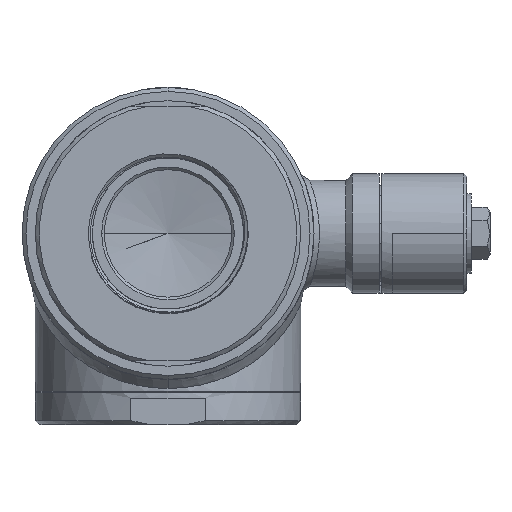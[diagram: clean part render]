
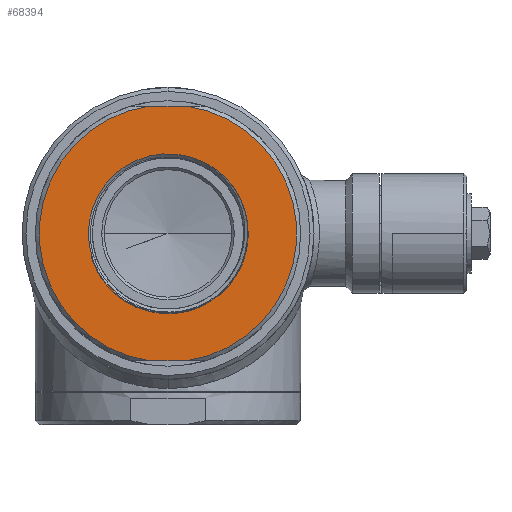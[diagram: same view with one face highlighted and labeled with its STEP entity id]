
A CAD part, front view. The second image highlights one B-rep face of the part: STEP entity #68394.
In plain terms, the highlighted planar face has unit normal (0, -1, 0).
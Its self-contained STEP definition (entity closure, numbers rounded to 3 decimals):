
#10607=CARTESIAN_POINT('',(12.634,-72.,27.21));
#10887=CARTESIAN_POINT('',(21.377,-72.,21.377));
#10899=DIRECTION('',(-1.,0.,0.));
#10900=VECTOR('',#10899,13.892);
#10901=CARTESIAN_POINT('',(6.946,-72.,
-48.));
#10902=LINE('',#10901,#10900);
#10906=DIRECTION('',(-1.,0.,0.));
#10907=VECTOR('',#10906,13.892);
#10908=CARTESIAN_POINT('',(6.946,-72.,
48.));
#10909=LINE('',#10908,#10907);
#10913=CARTESIAN_POINT('',(29.202,-72.,7.825));
#10914=CARTESIAN_POINT('',(29.322,-72.,7.334));
#10915=CARTESIAN_POINT('',(29.537,-72.,6.349));
#10916=CARTESIAN_POINT('',(29.785,-72.,4.857));
#10917=CARTESIAN_POINT('',(29.958,-72.,3.357));
#10918=CARTESIAN_POINT('',(30.055,-72.,1.849));
#10919=CARTESIAN_POINT('',(30.077,-72.,0.342));
#10920=CARTESIAN_POINT('',(30.023,-72.,-1.166));
#10921=CARTESIAN_POINT('',(29.937,-72.,-2.165));
#10922=CARTESIAN_POINT('',(29.882,-72.,-2.664));
#10927=CARTESIAN_POINT('',(21.377,-72.,21.377));
#10928=CARTESIAN_POINT('',(21.751,-72.,21.004));
#10929=CARTESIAN_POINT('',(22.477,-72.,20.239));
#10930=CARTESIAN_POINT('',(23.506,-72.,19.034));
#10931=CARTESIAN_POINT('',(24.469,-72.,17.779));
#10932=CARTESIAN_POINT('',(25.366,-72.,16.473));
#10933=CARTESIAN_POINT('',(26.193,-72.,15.123));
#10934=CARTESIAN_POINT('',(26.949,-72.,13.732));
#10935=CARTESIAN_POINT('',(27.631,-72.,12.302));
#10936=CARTESIAN_POINT('',(28.237,-72.,10.84));
#10937=CARTESIAN_POINT('',(28.766,-72.,9.346));
#10938=CARTESIAN_POINT('',(29.065,-72.,8.335));
#10939=CARTESIAN_POINT('',(29.202,-72.,7.825));
#10944=CARTESIAN_POINT('',(12.634,-72.,27.21));
#10945=CARTESIAN_POINT('',(13.094,-72.,27.009));
#10946=CARTESIAN_POINT('',(14.002,-72.,26.584));
#10947=CARTESIAN_POINT('',(15.334,-72.,25.877));
#10948=CARTESIAN_POINT('',(16.629,-72.,25.104));
#10949=CARTESIAN_POINT('',(17.886,-72.,24.266));
#10950=CARTESIAN_POINT('',(19.098,-72.,23.366));
#10951=CARTESIAN_POINT('',(20.267,-72.,22.405));
#10952=CARTESIAN_POINT('',(21.013,-72.,21.726));
#10953=CARTESIAN_POINT('',(21.377,-72.,21.377));
#10958=CARTESIAN_POINT('',(0.,-72.,0.));
#10959=DIRECTION('',(0.,1.,0.));
#10960=DIRECTION('',(-1.,0.,0.));
#10961=AXIS2_PLACEMENT_3D('',#10958,#10959,#10960);
#10966=CARTESIAN_POINT('',(0.,-72.,0.));
#10967=DIRECTION('',(0.,1.,0.));
#10968=DIRECTION('',(0.996,0.,-0.089));
#10969=AXIS2_PLACEMENT_3D('',#10966,#10967,#10968);
#10974=CARTESIAN_POINT('',(0.,-72.,0.));
#10975=DIRECTION('',(0.,-1.,0.));
#10976=DIRECTION('',(0.143,0.,-0.99));
#10977=AXIS2_PLACEMENT_3D('',#10974,#10975,#10976);
#11106=CARTESIAN_POINT('',(0.,-72.,0.));
#11107=DIRECTION('',(0.,-1.,0.));
#11108=DIRECTION('',(-0.143,0.,0.99));
#11109=AXIS2_PLACEMENT_3D('',#11106,#11107,#11108);
#11120=CARTESIAN_POINT('',(6.946,-72.,
-48.));
#11139=CARTESIAN_POINT('',(-6.946,-72.,
-48.));
#11157=CARTESIAN_POINT('',(6.946,-72.,
48.));
#11174=CARTESIAN_POINT('',(-6.946,-72.,
48.));
#11373=CARTESIAN_POINT('',(29.202,-72.,7.825));
#11385=CARTESIAN_POINT('',(29.882,-72.,-2.664));
#59328=VERTEX_POINT('',#11120);
#59331=VERTEX_POINT('',#11157);
#59334=VERTEX_POINT('',#11174);
#59337=VERTEX_POINT('',#11139);
#59379=CARTESIAN_POINT('',(-30.,-72.,
0.));
#59381=VERTEX_POINT('',#59379);
#59389=VERTEX_POINT('',#11385);
#59390=VERTEX_POINT('',#11373);
#59391=VERTEX_POINT('',#10887);
#59392=VERTEX_POINT('',#10607);
#68369=CARTESIAN_POINT('',(0.,-72.,0.));
#68370=DIRECTION('',(0.,-1.,0.));
#68371=DIRECTION('',(-1.,0.,0.));
#68372=AXIS2_PLACEMENT_3D('',#68369,#68370,#68371);
#68373=PLANE('',#68372);
#68375=ORIENTED_EDGE('',*,*,#68374,.F.);
#68377=ORIENTED_EDGE('',*,*,#68376,.T.);
#68379=ORIENTED_EDGE('',*,*,#68378,.F.);
#68381=ORIENTED_EDGE('',*,*,#68380,.F.);
#68382=EDGE_LOOP('',(#68375,#68377,#68379,#68381));
#68383=FACE_OUTER_BOUND('',#68382,.F.);
#68385=ORIENTED_EDGE('',*,*,#68384,.F.);
#68387=ORIENTED_EDGE('',*,*,#68386,.F.);
#68388=ORIENTED_EDGE('',*,*,#68360,.F.);
#68389=ORIENTED_EDGE('',*,*,#68211,.F.);
#68391=ORIENTED_EDGE('',*,*,#68390,.F.);
#68392=EDGE_LOOP('',(#68385,#68387,#68388,#68389,#68391));
#68393=FACE_BOUND('',#68392,.F.);
#68394=ADVANCED_FACE('',(#68383,#68393),#68373,.T.);
#10923=B_SPLINE_CURVE_WITH_KNOTS('',3,(#10913,#10914,#10915,#10916,#10917,
#10918,#10919,#10920,#10921,#10922),.UNSPECIFIED.,.F.,.F.,(4,1,1,1,1,1,1,4),(
0.,0.143,0.286,0.429,0.571,
0.714,0.857,1.),.UNSPECIFIED.);
#10940=B_SPLINE_CURVE_WITH_KNOTS('',3,(#10927,#10928,#10929,#10930,#10931,
#10932,#10933,#10934,#10935,#10936,#10937,#10938,#10939),.UNSPECIFIED.,.F.,.F.,(
4,1,1,1,1,1,1,1,1,1,4),(0.,0.1,0.2,0.3,0.4,0.5,0.6,0.7,0.8,
0.9,1.),.UNSPECIFIED.);
#10954=B_SPLINE_CURVE_WITH_KNOTS('',3,(#10944,#10945,#10946,#10947,#10948,
#10949,#10950,#10951,#10952,#10953),.UNSPECIFIED.,.F.,.F.,(4,1,1,1,1,1,1,4),(
0.,0.143,0.286,0.429,0.571,
0.714,0.857,1.),.UNSPECIFIED.);
#10962=CIRCLE('',#10961,30.);
#10970=CIRCLE('',#10969,30.);
#10978=CIRCLE('',#10977,48.5);
#11110=CIRCLE('',#11109,48.5);
#68211=EDGE_CURVE('',#59381,#59392,#10962,.T.);
#68360=EDGE_CURVE('',#59392,#59391,#10954,.T.);
#68374=EDGE_CURVE('',#59328,#59331,#10978,.T.);
#68376=EDGE_CURVE('',#59328,#59337,#10902,.T.);
#68378=EDGE_CURVE('',#59334,#59337,#11110,.T.);
#68380=EDGE_CURVE('',#59331,#59334,#10909,.T.);
#68384=EDGE_CURVE('',#59390,#59389,#10923,.T.);
#68386=EDGE_CURVE('',#59391,#59390,#10940,.T.);
#68390=EDGE_CURVE('',#59389,#59381,#10970,.T.);
